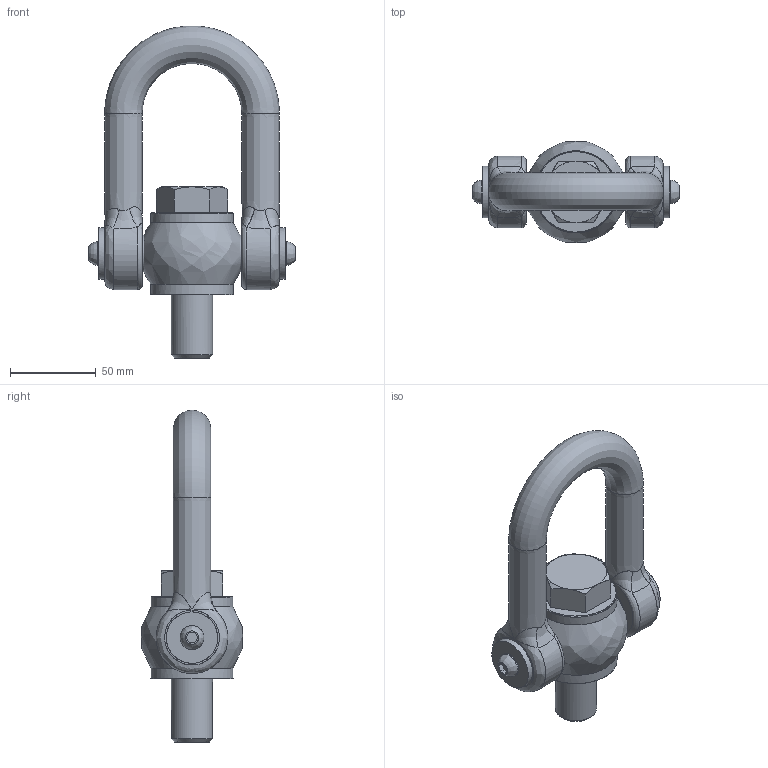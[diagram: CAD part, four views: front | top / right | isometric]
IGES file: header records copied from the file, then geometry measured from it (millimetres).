
Global section: file name: E:\UnigraphicsGraphicData\MISUMI_MOLD-PARTS\NX\3d_sleb24_00880_r00.igs; native system: NX V5.0; preprocessor: UGS NX IGES V5.0; author: MISUMI; date: 20101115.183349; units: millimetre
Bounding box: 121 x 59.01 x 193.97 mm (x, y, z)
Surface area: 53490.6 mm2 (no closed solid volume)
Topology: 0 solids, 0 shells, 79 faces, 750 edges, 723 vertices
Faces by surface type: bspline 79
